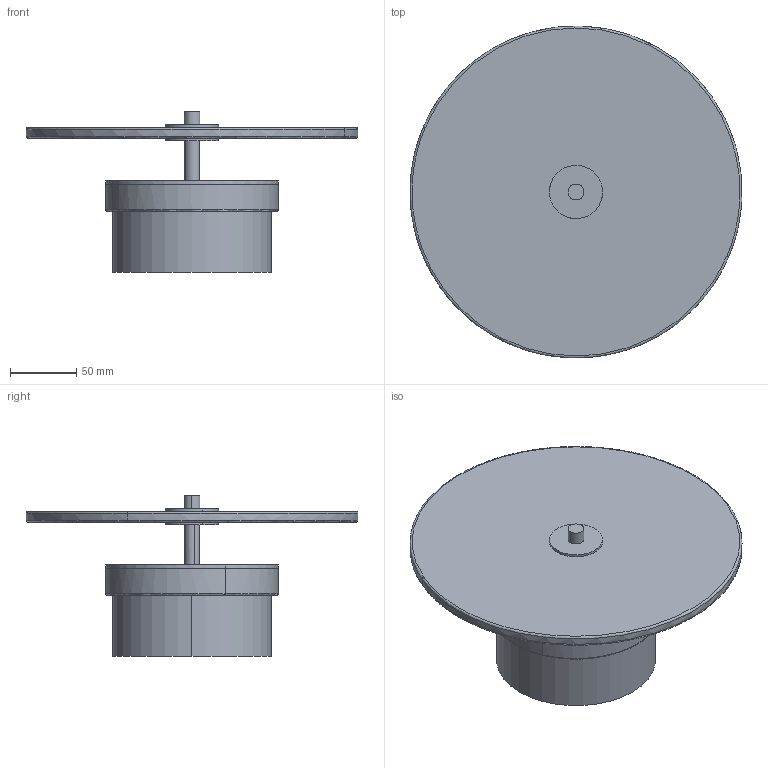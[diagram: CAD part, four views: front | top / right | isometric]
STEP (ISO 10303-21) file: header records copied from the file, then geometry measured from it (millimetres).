
FILE_DESCRIPTION (( 'STEP AP214' ), '1' );
FILE_NAME ('SUAL_AU1255.STEP', '2026-06-08T15:08:39', ( '' ), ( '' ), 'SwSTEP 2.0', 'SolidWorks 2023', '' );
FILE_SCHEMA (( 'AUTOMOTIVE_DESIGN' ));
Length unit declared in the file: inch
Products named in the file (1): SUAL_AU1255
Bounding box: 249.99 x 249.96 x 120.97 mm (x, y, z)
Surface area: 213251.4 mm2 (no closed solid volume)
Topology: 0 solids, 9 shells, 39 faces, 70 edges, 46 vertices
Faces by surface type: bspline 35, cylinder 2, plane 2
Entity records: 1905 total; most frequent: CARTESIAN_POINT 1348, ORIENTED_EDGE 132, EDGE_CURVE 70, VERTEX_POINT 46, EDGE_LOOP 42, B_SPLINE_CURVE_WITH_KNOTS 41, ADVANCED_FACE 39, FACE_OUTER_BOUND 39
